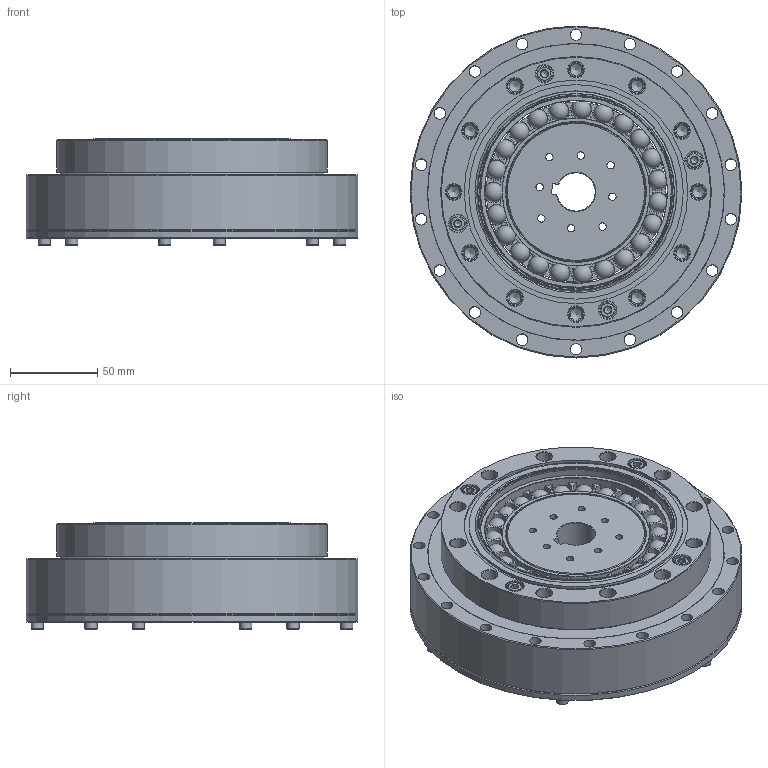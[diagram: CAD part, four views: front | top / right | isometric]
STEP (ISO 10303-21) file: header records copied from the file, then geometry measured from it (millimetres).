
FILE_DESCRIPTION(/* description */ (''),/* implementation_level */ '2;1');
FILE_NAME(/* name */ 'FHG-45-XX-U-I(孔径22W6).stp',/* time_stamp */ '2024-12-06T10:28:32+08:00',/* author */ (''),/* organization */ (''),/* preprocessor_version */ 'ST-DEVELOPER v16.7',/* originating_system */ 'SIEMENS PLM Software NX 12.0',/* authorisation */ '');
FILE_SCHEMA (('AUTOMOTIVE_DESIGN { 1 0 10303 214 3 1 1 1 }'));
Length unit declared in the file: millimetre
Products named in the file (15): TC-152x170x7_stp; EB7911016-45KCH-46; EB7911016-45KCH-04; EB7911016-45KCH-02; EB7911016-45KCH-01; GB-T70.1-2000,M4x12; GB-T70.1-2000,M5x20; O型密封圈128-122.8-1.5; O型密封圈170-164-1.5; 发生器FSG-45-XXDL直径22w6_stp; 刚轮FHG-45; 柔轮FHG-45; 交叉轴承LHT-45_stp; EB7911016-45KCH_stp; FHG-45-XX-U-I(孔径22W6)
Assembly tree (22 placements, depth 3):
  FHG-45-XX-U-I(孔径22W6)
    柔轮FHG-45
    刚轮FHG-45
    EB7911016-45KCH_stp
      EB7911016-45KCH-01
      EB7911016-45KCH-02
      EB7911016-45KCH-04
      EB7911016-45KCH-46
    发生器FSG-45-XXDL直径22w6_stp
    交叉轴承LHT-45_stp
      TC-152x170x7_stp
    O型密封圈170-164-1.5
    O型密封圈128-122.8-1.5
    GB-T70.1-2000,M5x20  x4
    GB-T70.1-2000,M4x12  x6
Bounding box: 190 x 190 x 61 mm (x, y, z)
Volume: 820172.2 mm3; surface area: 328833.5 mm2
Topology: 44 solids, 44 shells, 821 faces, 1892 edges, 1151 vertices
Faces by surface type: plane 249, cone 239, cylinder 217, torus 91, sphere 23, bspline 2
Full cylindrical faces by diameter (mm): 2.5 x4, 3.3 x6, 3.838 x6, 4.2 x20, 4.5 x6, 4.826 x4, 5.5 x4, 6.5 x18, 6.6 x18, 6.8 x12, 7 x6, 8.5 x4, 9 x12, 10 x4, 32 x1, 77 x1, 79.48 x2, 83 x1, 84.7 x2, 87.5 x1, 92 x1, 102.6 x1, 104.54 x2, 110.43 x2, 111.722 x1, 113.3 x1, 115.54 x1, 118 x1, 120 x2, 122.8 x3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
Entity records: 18186 total; most frequent: CARTESIAN_POINT 4908, DIRECTION 2857, ORIENTED_EDGE 1998, AXIS2_PLACEMENT_3D 1344, EDGE_LOOP 1081, EDGE_CURVE 999, FACE_BOUND 913, VERTEX_POINT 835
